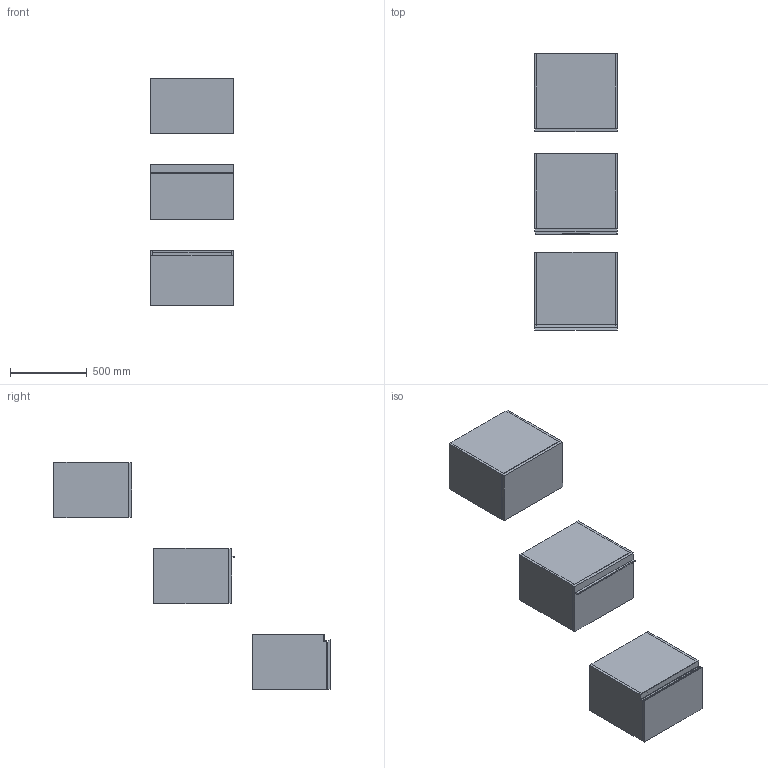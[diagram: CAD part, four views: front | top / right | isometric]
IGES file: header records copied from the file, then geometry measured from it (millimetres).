
Start section: Data from Parasolid IGES Translator 19.0.9, Copyright(c) 2006 Siemens PL M Software. All Rights Reserved.
Global section: file name: noorth-SI-H 36 D 51 W 54_8368.igs; native system: By Siemens PLM Incorporated; preprocessor: XPlus GENERIC/IGES 19.0.9; author: Noname; organization: Noname; date: 20200601.095248; units: metre
Bounding box: 540.01 x 1799.15 x 1480 mm (x, y, z)
Volume: 52545419 mm3; surface area: 7729863.4 mm2
Topology: 20 solids, 20 shells, 178 faces, 382 edges, 234 vertices
Faces by surface type: plane 134, extrusion 16, bspline 16, cylinder 12
